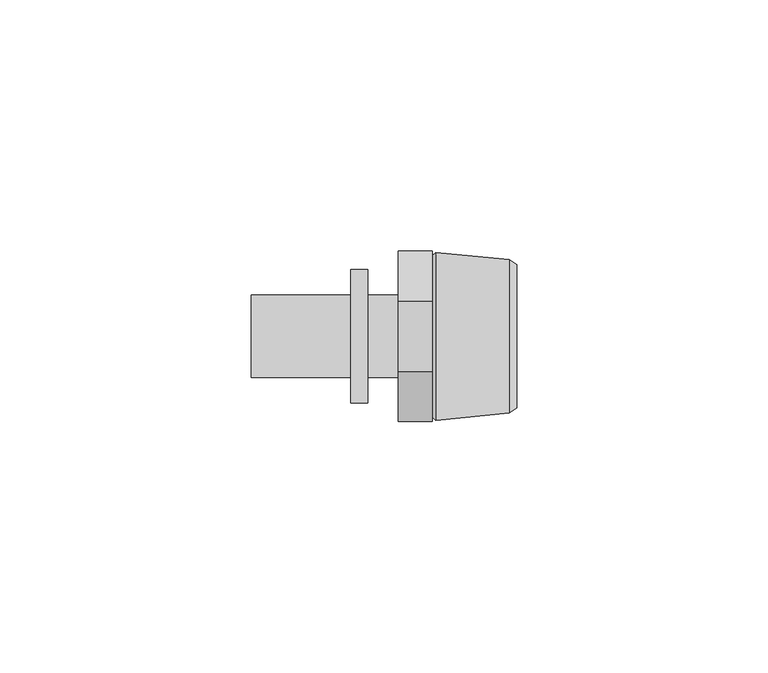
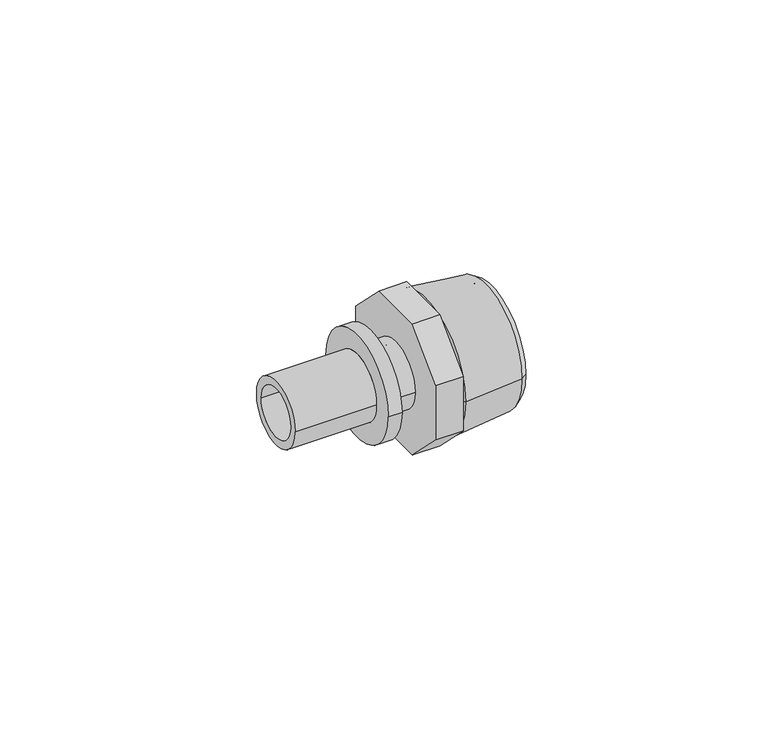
"""IFC4 building model written with IfcOpenShell, lengths in millimetres: pipe fitting geometry, RAUTITAN_Adapter_external_thread : RTI A external DE."""

from ifc_helpers import new_model, si_unit, frame, origin, place, context, project, spatial, polyline, circle_curve, outline, extrude, source, transform, mapped, element, save
from ifc_brep_helpers import plane_surface, cylinder_surface, revolved_surface, advanced_brep


def pipe_fitting_5419b815(model_context):
    return source(origin(), model_context, "Body", "SolidModel", [
        advanced_brep(
        [(-9.44, 8.225, 0.0), (-9.44, -8.225, 0.0), (-29.3, -8.225, 0.0), (-29.3, 8.225, 0.0), (-6.09, 13.25, 0.0), (-6.09, -13.25, 0.0), (-9.44, -13.25, 0.0), (-9.44, 13.25, 0.0), (-29.3, 6.25, 0.0), (-29.3, -6.25, 0.0), (0.0, -6.25, 0.0), (0.0, 6.25, 0.0), (0.0, 8.225, 0.0), (0.0, -8.225, 0.0), (-6.09, -8.225, 0.0), (-6.09, 8.225, 0.0)],
        [
            (0, 1, circle_curve(frame((-9.44, 0.0, 0.0), z_axis=(-1.0, 0.0, 0.0), x_axis=(0.0, -1.0, 0.0)), 8.225)),
            (1, 2),
            (2, 3, circle_curve(frame((-29.3, 0.0, 0.0), z_axis=(1.0, 0.0, 0.0), x_axis=(0.0, -1.0, 0.0)), 8.225)),
            (3, 0),
            (4, 5, circle_curve(frame((-6.09, 0.0, 0.0), z_axis=(-1.0, 0.0, 0.0), x_axis=(0.0, -1.0, 0.0)), 13.25)),
            (5, 6),
            (6, 7, circle_curve(frame((-9.44, 0.0, 0.0), z_axis=(1.0, 0.0, 0.0), x_axis=(0.0, -1.0, 0.0)), 13.25)),
            (7, 4),
            (8, 9, circle_curve(frame((-29.3, 0.0, 0.0), z_axis=(-1.0, 0.0, 0.0), x_axis=(0.0, -1.0, 0.0)), 6.25)),
            (9, 10),
            (10, 11, circle_curve(frame((0.0, 0.0, 0.0), z_axis=(1.0, 0.0, 0.0), x_axis=(0.0, -1.0, 0.0)), 6.25)),
            (11, 8),
            (2, 3, circle_curve(frame((-29.3, 0.0, 0.0), z_axis=(-1.0, 0.0, 0.0), x_axis=(0.0, 1.0, 0.0)), 8.225)),
            (8, 9, circle_curve(frame((-29.3, 0.0, 0.0), z_axis=(1.0, 0.0, 0.0), x_axis=(0.0, 1.0, 0.0)), 6.25)),
            (1, 0, circle_curve(frame((-9.44, 0.0, 0.0), z_axis=(-1.0, 0.0, 0.0), x_axis=(0.0, 1.0, 0.0)), 8.225)),
            (6, 7, circle_curve(frame((-9.44, 0.0, 0.0), z_axis=(-1.0, 0.0, 0.0), x_axis=(0.0, 1.0, 0.0)), 13.25)),
            (5, 4, circle_curve(frame((-6.09, 0.0, 0.0), z_axis=(-1.0, 0.0, 0.0), x_axis=(0.0, 1.0, 0.0)), 13.25)),
            (12, 13, circle_curve(frame((0.0, 0.0, 0.0), z_axis=(1.0, 0.0, 0.0), x_axis=(0.0, 1.0, 0.0)), 8.225)),
            (13, 12, circle_curve(frame((0.0, 0.0, 0.0), z_axis=(1.0, 0.0, 0.0), x_axis=(0.0, -1.0, 0.0)), 8.225)),
            (10, 11, circle_curve(frame((0.0, 0.0, 0.0), z_axis=(-1.0, 0.0, 0.0), x_axis=(0.0, 1.0, 0.0)), 6.25)),
            (13, 14),
            (14, 15, circle_curve(frame((-6.09, 0.0, 0.0), z_axis=(1.0, 0.0, 0.0), x_axis=(0.0, -1.0, 0.0)), 8.225)),
            (15, 12),
            (14, 15, circle_curve(frame((-6.09, 0.0, 0.0), z_axis=(-1.0, 0.0, 0.0), x_axis=(0.0, 1.0, 0.0)), 8.225)),
        ],
        [
            cylinder_surface(frame((0.0, 0.0, 0.0), z_axis=(1.0, 0.0, 0.0), x_axis=(0.0, -1.0, 0.0)), 8.225),
            cylinder_surface(frame((0.0, 0.0, 0.0), z_axis=(1.0, 0.0, 0.0), x_axis=(0.0, -1.0, 0.0)), 13.25),
            revolved_surface(polyline([(0.0, -6.25, 0.0), (-29.3, -6.25, 0.0)]), (0.0, 0.0, 0.0), (1.0, 0.0, 0.0)),
            plane_surface(frame((-29.3, 0.0, 0.0), z_axis=(-1.0, 0.0, 0.0), x_axis=(0.0, 1.0, 0.0))),
            cylinder_surface(frame((0.0, 0.0, 0.0), z_axis=(1.0, 0.0, 0.0), x_axis=(0.0, 1.0, 0.0)), 8.225),
            plane_surface(frame((-9.44, 0.0, 0.0), z_axis=(-1.0, 0.0, 0.0), x_axis=(0.0, 1.0, 0.0))),
            cylinder_surface(frame((0.0, 0.0, 0.0), z_axis=(1.0, 0.0, 0.0), x_axis=(0.0, 1.0, 0.0)), 13.25),
            plane_surface(frame((0.0, 0.0, 0.0), z_axis=(1.0, 0.0, 0.0), x_axis=(0.0, 1.0, 0.0))),
            revolved_surface(polyline([(0.0, 6.25, 0.0), (-29.3, 6.25, 0.0)]), (0.0, 0.0, 0.0), (1.0, 0.0, 0.0)),
            plane_surface(frame((-6.09, 0.0, 0.0), z_axis=(1.0, 0.0, 0.0), x_axis=(0.0, 1.0, 0.0))),
        ],
        [
            (0, [[1, 2, 3, 4]]),
            (1, [[5, 6, 7, 8]]),
            (2, [[9, 10, 11, 12]]),
            (3, [[13, -3], [14, -9]]),
            (4, [[15, -4, -13, -2]]),
            (5, [[16, -7], [-15, -1]]),
            (6, [[17, -8, -16, -6]]),
            (7, [[18, 19], [20, -11]]),
            (8, [[-14, -12, -20, -10]]),
            (0, [[-19, 21, 22, 23]]),
            (9, [[-17, -5], [24, -22]]),
            (4, [[-18, -23, -24, -21]]),
        ],
    ),
        advanced_brep(
        [(7.8632803, 12.75, 0.0), (7.8632803, -12.75, 0.0), (23.6, -12.75, 0.0), (23.6, 12.75, 0.0), (6.76, 11.6467197, 0.0), (6.76, -11.6467197, 0.0), (7.5006902, 16.715, 0.0), (7.5006902, -16.715, 0.0), (6.76, -16.1, 0.0), (6.76, 16.1, 0.0), (22.1000007, 15.275, 0.0), (22.1000007, -15.275, 0.0), (23.6, 14.3, 0.0), (23.6, -14.3, 0.0)],
        [
            (0, 1, circle_curve(frame((7.8632803, 0.0, 0.0), z_axis=(-1.0, 0.0, 0.0), x_axis=(0.0, -1.0, 0.0)), 12.75)),
            (1, 2),
            (2, 3, circle_curve(frame((23.6, 0.0, 0.0), z_axis=(1.0, 0.0, 0.0), x_axis=(0.0, -1.0, 0.0)), 12.75)),
            (3, 0),
            (4, 5, circle_curve(frame((6.76, 0.0, 0.0), z_axis=(-1.0, 0.0, 0.0), x_axis=(0.0, -1.0, 0.0)), 11.6467197)),
            (5, 1),
            (0, 4),
            (6, 7, circle_curve(frame((7.5006902, 0.0, 0.0), z_axis=(-1.0, 0.0, 0.0), x_axis=(0.0, -1.0, 0.0)), 16.715)),
            (7, 8),
            (8, 9, circle_curve(frame((6.76, 0.0, 0.0), z_axis=(1.0, 0.0, 0.0), x_axis=(0.0, -1.0, 0.0)), 16.1)),
            (9, 6),
            (10, 11, circle_curve(frame((22.1000007, 0.0, 0.0), z_axis=(-1.0, 0.0, 0.0), x_axis=(0.0, -1.0, 0.0)), 15.275)),
            (11, 7),
            (6, 10),
            (12, 13, circle_curve(frame((23.6, 0.0, 0.0), z_axis=(-1.0, 0.0, 0.0), x_axis=(0.0, -1.0, 0.0)), 14.3)),
            (13, 11),
            (10, 12),
            (1, 0, circle_curve(frame((7.8632803, 0.0, 0.0), z_axis=(-1.0, 0.0, 0.0), x_axis=(0.0, 1.0, 0.0)), 12.75)),
            (3, 2, circle_curve(frame((23.6, 0.0, 0.0), z_axis=(1.0, 0.0, 0.0), x_axis=(0.0, 1.0, 0.0)), 12.75)),
            (5, 4, circle_curve(frame((6.76, 0.0, 0.0), z_axis=(-1.0, 0.0, 0.0), x_axis=(0.0, 1.0, 0.0)), 11.6467197)),
            (8, 9, circle_curve(frame((6.76, 0.0, 0.0), z_axis=(-1.0, 0.0, 0.0), x_axis=(0.0, 1.0, 0.0)), 16.1)),
            (7, 6, circle_curve(frame((7.5006902, 0.0, 0.0), z_axis=(-1.0, 0.0, 0.0), x_axis=(0.0, 1.0, 0.0)), 16.715)),
            (11, 10, circle_curve(frame((22.1000007, 0.0, 0.0), z_axis=(-1.0, 0.0, 0.0), x_axis=(0.0, 1.0, 0.0)), 15.275)),
            (13, 12, circle_curve(frame((23.6, 0.0, 0.0), z_axis=(-1.0, 0.0, 0.0), x_axis=(0.0, 1.0, 0.0)), 14.3)),
        ],
        [
            revolved_surface(polyline([(23.6, -12.75, 0.0), (7.8632803, -12.75, 0.0)]), (0.0, 0.0, 0.0), (1.0, 0.0, 0.0)),
            revolved_surface(polyline([(7.8632803, -12.75, 0.0), (6.76, -11.6467197, 0.0)]), (0.0, 0.0, 0.0), (1.0, 0.0, 0.0)),
            revolved_surface(polyline([(6.76, -16.1, 0.0), (7.5006902, -16.715, 0.0)]), (0.0, 0.0, 0.0), (1.0, 0.0, 0.0)),
            revolved_surface(polyline([(7.5006902, -16.715, 0.0), (22.1000007, -15.275, 0.0)]), (0.0, 0.0, 0.0), (1.0, 0.0, 0.0)),
            revolved_surface(polyline([(22.1000007, -15.275, 0.0), (23.6, -14.3, 0.0)]), (0.0, 0.0, 0.0), (1.0, 0.0, 0.0)),
            revolved_surface(polyline([(23.6, 12.75, 0.0), (7.8632803, 12.75, 0.0)]), (0.0, 0.0, 0.0), (1.0, 0.0, 0.0)),
            revolved_surface(polyline([(7.8632803, 12.75, 0.0), (6.76, 11.6467197, 0.0)]), (0.0, 0.0, 0.0), (1.0, 0.0, 0.0)),
            plane_surface(frame((6.76, 0.0, 0.0), z_axis=(-1.0, 0.0, 0.0), x_axis=(0.0, 1.0, 0.0))),
            revolved_surface(polyline([(6.76, 16.1, 0.0), (7.5006902, 16.715, 0.0)]), (0.0, 0.0, 0.0), (1.0, 0.0, 0.0)),
            revolved_surface(polyline([(7.5006902, 16.715, 0.0), (22.1000007, 15.275, 0.0)]), (0.0, 0.0, 0.0), (1.0, 0.0, 0.0)),
            revolved_surface(polyline([(22.1000007, 15.275, 0.0), (23.6, 14.3, 0.0)]), (0.0, 0.0, 0.0), (1.0, 0.0, 0.0)),
            plane_surface(frame((23.6, 0.0, 0.0), z_axis=(1.0, 0.0, 0.0), x_axis=(0.0, 1.0, 0.0))),
        ],
        [
            (0, [[1, 2, 3, 4]]),
            (1, [[5, 6, -1, 7]]),
            (2, [[8, 9, 10, 11]]),
            (3, [[12, 13, -8, 14]]),
            (4, [[15, 16, -12, 17]]),
            (5, [[18, -4, 19, -2]]),
            (6, [[20, -7, -18, -6]]),
            (7, [[21, -10], [-20, -5]]),
            (8, [[22, -11, -21, -9]]),
            (9, [[23, -14, -22, -13]]),
            (10, [[24, -17, -23, -16]]),
            (11, [[-24, -15], [-19, -3]]),
        ],
    ),
        extrude(outline(polyline([(-17.0, 7.0416306), (-7.0416306, 17.0), (7.0416306, 17.0), (17.0, 7.0416306), (17.0, -7.0416306), (7.0416306, -17.0), (-7.0416306, -17.0), (-17.0, -7.0416306), (-17.0, 7.0416306)])), frame((0.0, 0.0, 0.0), z_axis=(1.0, 0.0, 0.0), x_axis=(0.0, 1.0, 0.0)), (0.0, 0.0, 1.0), 6.76),
    ])


if __name__ == "__main__":
    model = new_model("IFC4")
    model_context = context("Model", 3, world=origin())
    ifc_project = project(units=[si_unit("LENGTHUNIT", "METRE", prefix="MILLI")], contexts=[model_context])
    site = spatial("IfcSite", under=ifc_project)
    building = spatial("IfcBuilding", under=site)
    placement = place(None, origin())
    pipe_fitting_shape = pipe_fitting_5419b815(model_context)
    element("IfcPipeFitting", 1, ObjectType="RAUTITAN_Adapter_external_thread : RTI A external DE", at=placement, inside=building, context=model_context, shape_type="MappedRepresentation", body=[
        mapped(pipe_fitting_shape, transform((0.0, 0.0, 0.0), x_axis=(1.0, 0.0, 0.0), y_axis=(0.0, 1.0, 0.0), z_axis=(0.0, 0.0, 1.0))),
    ])
    save(model, "model.ifc")
